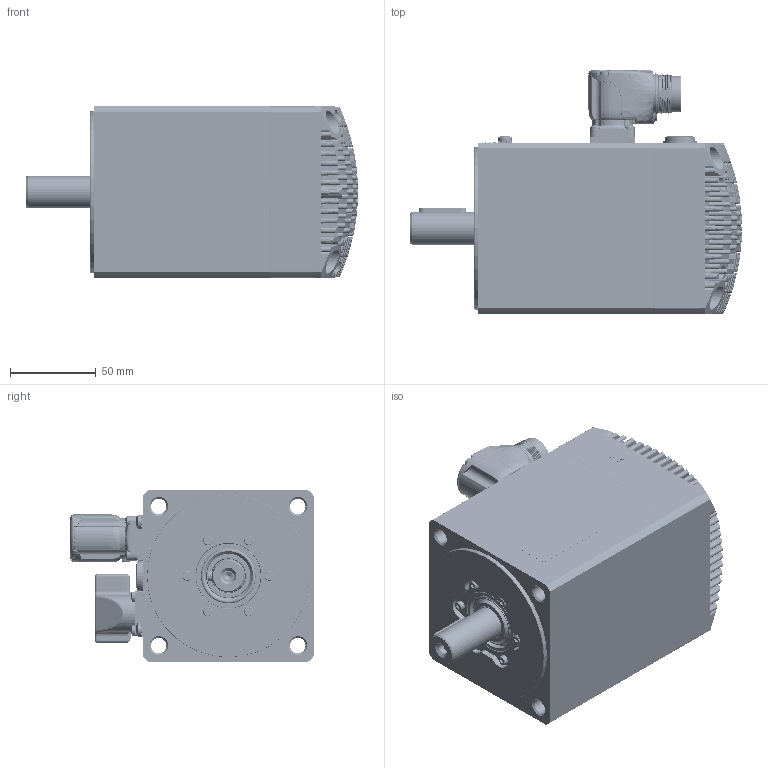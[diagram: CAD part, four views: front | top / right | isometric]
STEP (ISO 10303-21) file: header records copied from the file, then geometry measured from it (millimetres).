
FILE_DESCRIPTION((''),'2;1');
FILE_NAME('32190015651_ASM','2022-04-13T09:37:17',('gabrielec'),(''),'CREO PARAMETRIC BY PTC INC, 2021304','CREO PARAMETRIC BY PTC INC, 2021304','');
FILE_SCHEMA(('AP242_MANAGED_MODEL_BASED_3D_ENGINEERING_MIM_LF { 1 0 10303 442 1 1 4 }'));
Products named in the file (36): 52580N-0; 32149915564_ASM; 22320015067; 22320015067_ASM; 32050015011_ASM; 32060015506_ASM; 51941N-1; 32090015023_ASM; NRG_001; M3X16_GBT70-1; GB_T862_1; M4X8_GBT818_CU; 32159915174_ASM; 22160015160; MENTOR-1292_9013; CEMBRE_FD9; CEMBRE_2053M16N; 32150015177_ASM; UNI7687_M3X8_INOX; CAN_OPEN; 33200203857_AF4_ASM; 31500203857_AF4_ASM; 50941N-0; UNI7687_M3X6_INOX; UNI5931_M3X6_INOX; 22210015021; 32150015175_ASM; UNI5931_M4X16; LIP_SEAL_TW05; 22250015024; 22250015127; 43500000229; 43500000050; PHOENIX_1605512; L_6X6-28_UNI6604; 32190015651_ASM
Assembly tree (63 placements, depth 7):
  32190015651_ASM
    32159915174_ASM
      32149915564_ASM
        52580N-0
      32090015023_ASM
        32060015506_ASM
          32050015011_ASM
            22320015067_ASM
              22320015067
        51941N-1
      NRG_001  x6
      M3X16_GBT70-1  x6
      GB_T862_1  x2
      M4X8_GBT818_CU  x2
    32150015177_ASM
      22160015160
      MENTOR-1292_9013  x8
      CEMBRE_FD9
      CEMBRE_2053M16N
    UNI7687_M3X8_INOX  x4
    31500203857_AF4_ASM
      33200203857_AF4_ASM
        CAN_OPEN
    50941N-0  x2
    UNI7687_M3X6_INOX  x3
    UNI5931_M3X6_INOX
    32150015175_ASM
      22210015021
    UNI5931_M4X16  x4
    LIP_SEAL_TW05
    22250015024
    22250015127
    43500000229
    43500000050
    PHOENIX_1605512
    L_6X6-28_UNI6604
Bounding box: 194 x 142.41 x 100.8 mm (x, y, z)
Volume: 574682.5 mm3; surface area: 277758.7 mm2
Topology: 73 solids, 99 shells, 4367 faces, 10971 edges, 6942 vertices
Faces by surface type: plane 1464, cylinder 1037, cone 653, bspline 596, torus 352, sphere 243, revolution 11, extrusion 11
Entity records: 188726 total; most frequent: CARTESIAN_POINT 66407, ORIENTED_EDGE 19250, DIRECTION 17322, PRESENTATION_STYLE_ASSIGNMENT 9936, STYLED_ITEM 9706, EDGE_CURVE 9678, CURVE_STYLE 9634, AXIS2_PLACEMENT_3D 6761
